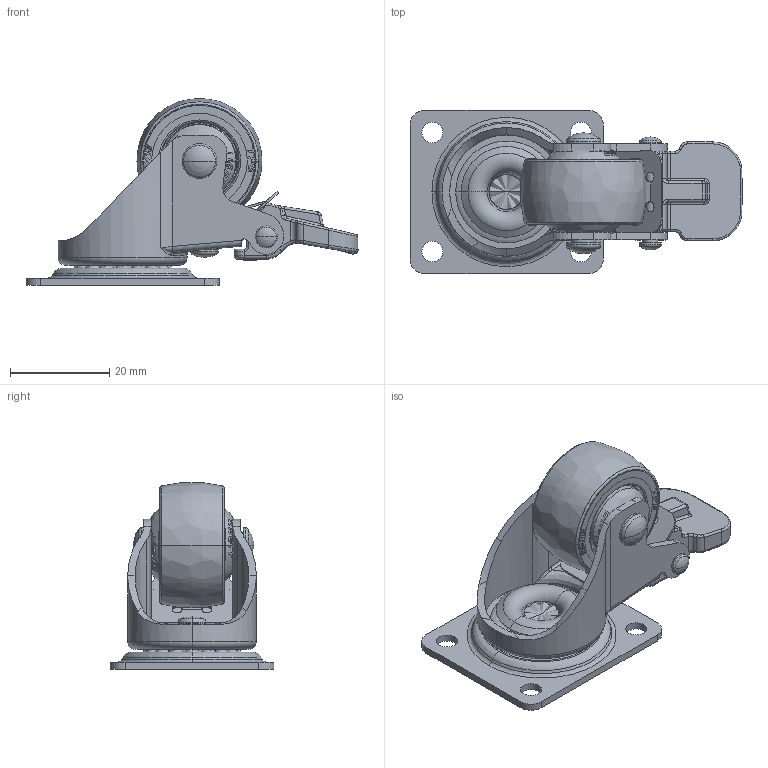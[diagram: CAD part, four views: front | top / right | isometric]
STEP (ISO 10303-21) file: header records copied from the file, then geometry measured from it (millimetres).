
FILE_DESCRIPTION((''),'2;1');
FILE_NAME('810-HDS_ASM','2021-06-16T',('Lenovo'),(''),'PRO/ENGINEER BY PARAMETRIC TECHNOLOGY CORPORATION, 2010280','PRO/ENGINEER BY PARAMETRIC TECHNOLOGY CORPORATION, 2010280','');
FILE_SCHEMA(('CONFIG_CONTROL_DESIGN'));
Length unit declared in the file: millimetre
Products named in the file (17): 810-DB; 810-GZS; 810-SSZJ; 810-GZX; 810-XBP; 810-LZMD; 810-ZXWD; 810-SCMD; 810-TP; 810-TPMD; 08-1-25-TPR-L_; 08-1-25-TPR-W_; 606_; 08-25-F-00__; 08-8-25__ASM; 01125-SB-20210110; 810-HDS_ASM
Assembly tree (17 placements, depth 3):
  810-HDS_ASM
    810-DB
    810-GZS
    810-SSZJ
    810-GZX
    810-XBP
    810-LZMD
    810-ZXWD
    810-SCMD
    810-TP
    810-TPMD
    08-8-25__ASM
      08-1-25-TPR-L_
      08-1-25-TPR-W_
      606_
      08-25-F-00__  x2
    01125-SB-20210110
Bounding box: 67 x 33 x 37.71 mm (x, y, z)
Volume: 13910.7 mm3; surface area: 21894.2 mm2
Topology: 53 solids, 56 shells, 1189 faces, 3074 edges, 1883 vertices
Faces by surface type: plane 447, extrusion 208, cylinder 168, bspline 120, torus 106, sphere 88, cone 52
Entity records: 39041 total; most frequent: CARTESIAN_POINT 15489, ORIENTED_EDGE 5052, DIRECTION 4243, EDGE_CURVE 2532, VERTEX_POINT 1635, AXIS2_PLACEMENT_3D 1511, VECTOR 1221, EDGE_LOOP 1127
